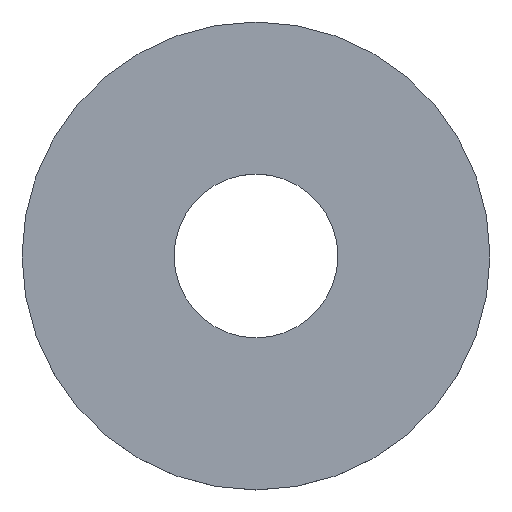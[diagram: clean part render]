
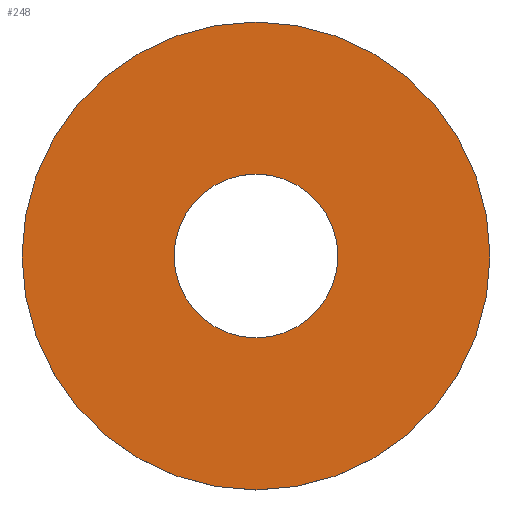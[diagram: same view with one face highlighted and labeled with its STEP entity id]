
A CAD part, top view. The second image highlights one B-rep face of the part: STEP entity #248.
In plain terms, the highlighted planar face has unit normal (0, 0, 1).
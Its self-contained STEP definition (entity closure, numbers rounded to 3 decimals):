
#1 = DIRECTION ( 'NONE',  ( 1., 0., 0. ) ) ;
#2 = CARTESIAN_POINT ( 'NONE',  ( -15., 0., 0.75 ) ) ;
#6 = DIRECTION ( 'NONE',  ( 1., 0., 0. ) ) ;
#9 = PLANE ( 'NONE',  #132 ) ;
#16 = AXIS2_PLACEMENT_3D ( 'NONE', #46, #58, #123 ) ;
#19 = CARTESIAN_POINT ( 'NONE',  ( 0., 0., 0.75 ) ) ;
#21 = FACE_BOUND ( 'NONE', #65, .T. ) ;
#23 = DIRECTION ( 'NONE',  ( 0., 0., 1. ) ) ;
#27 = CIRCLE ( 'NONE', #190, 5.25 ) ;
#33 = CIRCLE ( 'NONE', #16, 15. ) ;
#46 = CARTESIAN_POINT ( 'NONE',  ( 0., 0., 0.75 ) ) ;
#48 = ORIENTED_EDGE ( 'NONE', *, *, #228, .F. ) ;
#50 = CIRCLE ( 'NONE', #56, 5.25 ) ;
#56 = AXIS2_PLACEMENT_3D ( 'NONE', #165, #156, #1 ) ;
#58 = DIRECTION ( 'NONE',  ( 0., 0., 1. ) ) ;
#65 = EDGE_LOOP ( 'NONE', ( #48, #148 ) ) ;
#71 = VERTEX_POINT ( 'NONE', #2 ) ;
#78 = CIRCLE ( 'NONE', #97, 15. ) ;
#88 = CARTESIAN_POINT ( 'NONE',  ( -5.25, 0., 0.75 ) ) ;
#89 = EDGE_CURVE ( 'NONE', #71, #185, #78, .T. ) ;
#97 = AXIS2_PLACEMENT_3D ( 'NONE', #19, #23, #142 ) ;
#104 = DIRECTION ( 'NONE',  ( 0., 0., 1. ) ) ;
#117 = EDGE_CURVE ( 'NONE', #193, #118, #27, .T. ) ;
#118 = VERTEX_POINT ( 'NONE', #88 ) ;
#123 = DIRECTION ( 'NONE',  ( 1., 0., 0. ) ) ;
#132 = AXIS2_PLACEMENT_3D ( 'NONE', #241, #222, #197 ) ;
#142 = DIRECTION ( 'NONE',  ( 1., 0., 0. ) ) ;
#146 = ORIENTED_EDGE ( 'NONE', *, *, #157, .T. ) ;
#148 = ORIENTED_EDGE ( 'NONE', *, *, #117, .F. ) ;
#156 = DIRECTION ( 'NONE',  ( 0., 0., 1. ) ) ;
#157 = EDGE_CURVE ( 'NONE', #185, #71, #33, .T. ) ;
#163 = CARTESIAN_POINT ( 'NONE',  ( 0., 0., 0.75 ) ) ;
#165 = CARTESIAN_POINT ( 'NONE',  ( 0., 0., 0.75 ) ) ;
#172 = FACE_OUTER_BOUND ( 'NONE', #184, .T. ) ;
#179 = CARTESIAN_POINT ( 'NONE',  ( 15., 0., 0.75 ) ) ;
#184 = EDGE_LOOP ( 'NONE', ( #239, #146 ) ) ;
#185 = VERTEX_POINT ( 'NONE', #179 ) ;
#190 = AXIS2_PLACEMENT_3D ( 'NONE', #163, #104, #6 ) ;
#193 = VERTEX_POINT ( 'NONE', #205 ) ;
#197 = DIRECTION ( 'NONE',  ( 1., 0., 0. ) ) ;
#205 = CARTESIAN_POINT ( 'NONE',  ( 5.25, 0., 0.75 ) ) ;
#222 = DIRECTION ( 'NONE',  ( 0., 0., 1. ) ) ;
#228 = EDGE_CURVE ( 'NONE', #118, #193, #50, .T. ) ;
#239 = ORIENTED_EDGE ( 'NONE', *, *, #89, .T. ) ;
#241 = CARTESIAN_POINT ( 'NONE',  ( 0., 0., 0.75 ) ) ;
#248 = ADVANCED_FACE ( 'NONE', ( #172, #21 ), #9, .T. ) ;
